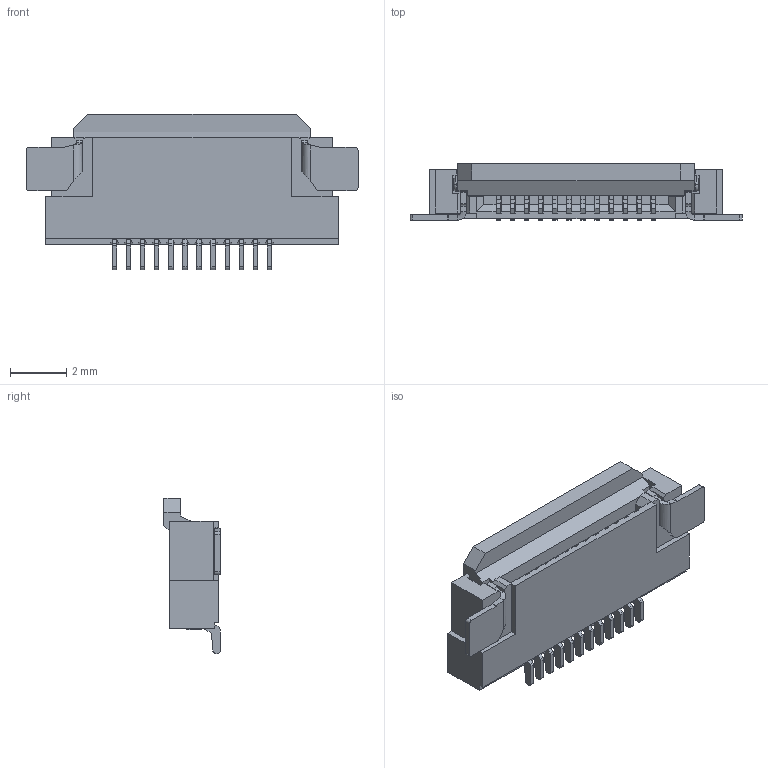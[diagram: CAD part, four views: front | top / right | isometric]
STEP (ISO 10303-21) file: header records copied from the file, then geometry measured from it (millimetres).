
FILE_DESCRIPTION((''),'2;1');
FILE_NAME('S-51548-015XX-XXX','2011-12-19T',('12114032'),(''),'PRO/ENGINEER BY PARAMETRIC TECHNOLOGY CORPORATION, 2009360','PRO/ENGINEER BY PARAMETRIC TECHNOLOGY CORPORATION, 2009360','');
FILE_SCHEMA(('CONFIG_CONTROL_DESIGN'));
Length unit declared in the file: millimetre
Products named in the file (1): S-51548-015XX-XXX
Bounding box: 11.8 x 2 x 5.51 mm (x, y, z)
Volume: 51.9 mm3; surface area: 370.5 mm2
Topology: 2 solids, 2 shells, 961 faces, 3429 edges, 2392 vertices
Faces by surface type: plane 641, cylinder 310, bspline 6, torus 4
Entity records: 37999 total; most frequent: CARTESIAN_POINT 7240, ORIENTED_EDGE 6858, DIRECTION 6385, EDGE_CURVE 3429, VERTEX_POINT 2392, VECTOR 2319, LINE 2319, AXIS2_PLACEMENT_3D 2033
